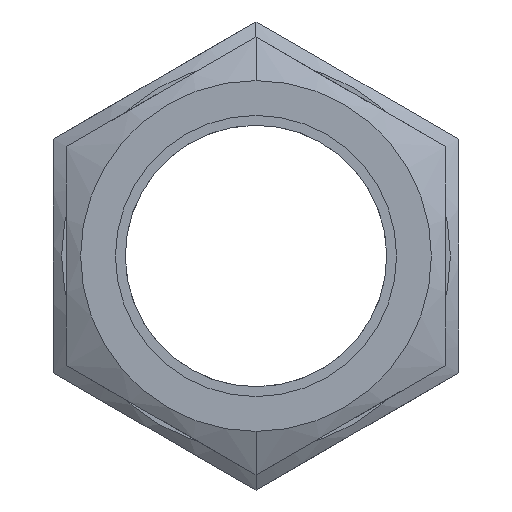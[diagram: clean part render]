
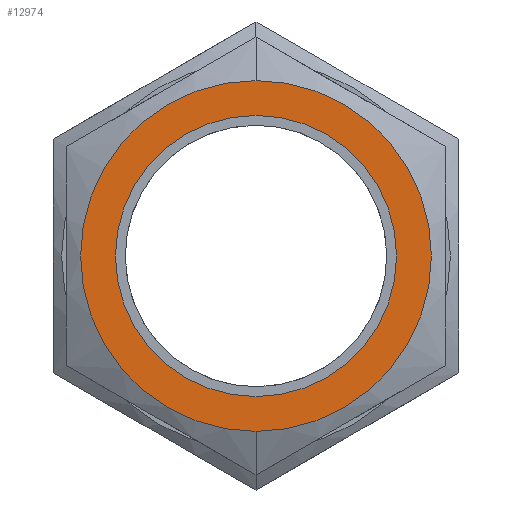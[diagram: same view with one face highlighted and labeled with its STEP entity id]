
A CAD part, left-side view. The second image highlights one B-rep face of the part: STEP entity #12974.
In plain terms, the highlighted planar face has unit normal (-1, 0, 0).
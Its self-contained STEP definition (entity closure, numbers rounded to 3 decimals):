
#6032 = CARTESIAN_POINT ( 'NONE',  ( -813.508, 0., 71.953 ) ) ;
#6033 = DIRECTION ( 'NONE',  ( 1., 0., 0. ) ) ;
#6034 = DIRECTION ( 'NONE',  ( 0., 0., 1. ) ) ;
#7785 = CARTESIAN_POINT ( 'NONE',  ( -813.508, 0., 71.953 ) ) ;
#7787 = DIRECTION ( 'NONE',  ( 1., 0., 0. ) ) ;
#7789 = DIRECTION ( 'NONE',  ( 0., 0., 1. ) ) ;
#9658 = EDGE_LOOP ( 'NONE', ( #16742, #16743 ) ) ;
#9668 = EDGE_LOOP ( 'NONE', ( #16744, #16745 ) ) ;
#10519 = AXIS2_PLACEMENT_3D ( 'NONE', #14591, #14598, #14599 ) ;
#12574 = CARTESIAN_POINT ( 'NONE',  ( -813.508, 0., 71.953 ) ) ;
#12575 = DIRECTION ( 'NONE',  ( 1., 0., 0. ) ) ;
#12576 = DIRECTION ( 'NONE',  ( 0., 0., 1. ) ) ;
#12692 = CARTESIAN_POINT ( 'NONE',  ( -813.508, 0., 71.953 ) ) ;
#12693 = DIRECTION ( 'NONE',  ( 1., 0., 0. ) ) ;
#12694 = DIRECTION ( 'NONE',  ( 0., 0., 1. ) ) ;
#12792 = CARTESIAN_POINT ( 'NONE',  ( -813.508, 0., 93.453 ) ) ;
#12794 = CARTESIAN_POINT ( 'NONE',  ( -813.508, 0., 50.453 ) ) ;
#12974 = ADVANCED_FACE ( 'NONE', ( #14594, #14595 ), #14596, .F. ) ;
#13182 = EDGE_CURVE ( 'NONE', #17136, #17156, #16102, .T. ) ;
#13196 = EDGE_CURVE ( 'NONE', #16835, #16833, #16130, .T. ) ;
#13414 = EDGE_CURVE ( 'NONE', #16833, #16835, #16009, .T. ) ;
#13430 = EDGE_CURVE ( 'NONE', #17156, #17136, #15994, .T. ) ;
#14591 = CARTESIAN_POINT ( 'NONE',  ( -813.508, -21.5, 71.953 ) ) ;
#14594 = FACE_BOUND ( 'NONE', #9658, .T. ) ;
#14595 = FACE_OUTER_BOUND ( 'NONE', #9668, .T. ) ;
#14596 = PLANE ( 'NONE',  #10519 ) ;
#14598 = DIRECTION ( 'NONE',  ( 1., 0., 0. ) ) ;
#14599 = DIRECTION ( 'NONE',  ( 0., 0., 1. ) ) ;
#15064 = CARTESIAN_POINT ( 'NONE',  ( -813.508, 0., 98.787 ) ) ;
#15090 = CARTESIAN_POINT ( 'NONE',  ( -813.508, 0., 45.119 ) ) ;
#15992 = AXIS2_PLACEMENT_3D ( 'NONE', #12692, #12693, #12694 ) ;
#15994 = CIRCLE ( 'NONE', #15992, 26.834 ) ;
#16006 = AXIS2_PLACEMENT_3D ( 'NONE', #12574, #12575, #12576 ) ;
#16009 = CIRCLE ( 'NONE', #16006, 21.5 ) ;
#16102 = CIRCLE ( 'NONE', #16108, 26.834 ) ;
#16108 = AXIS2_PLACEMENT_3D ( 'NONE', #6032, #6033, #6034 ) ;
#16130 = CIRCLE ( 'NONE', #16135, 21.5 ) ;
#16135 = AXIS2_PLACEMENT_3D ( 'NONE', #7785, #7787, #7789 ) ;
#16742 = ORIENTED_EDGE ( 'NONE', *, *, #13414, .T. ) ;
#16743 = ORIENTED_EDGE ( 'NONE', *, *, #13196, .T. ) ;
#16744 = ORIENTED_EDGE ( 'NONE', *, *, #13182, .F. ) ;
#16745 = ORIENTED_EDGE ( 'NONE', *, *, #13430, .F. ) ;
#16833 = VERTEX_POINT ( 'NONE', #12792 ) ;
#16835 = VERTEX_POINT ( 'NONE', #12794 ) ;
#17136 = VERTEX_POINT ( 'NONE', #15064 ) ;
#17156 = VERTEX_POINT ( 'NONE', #15090 ) ;
